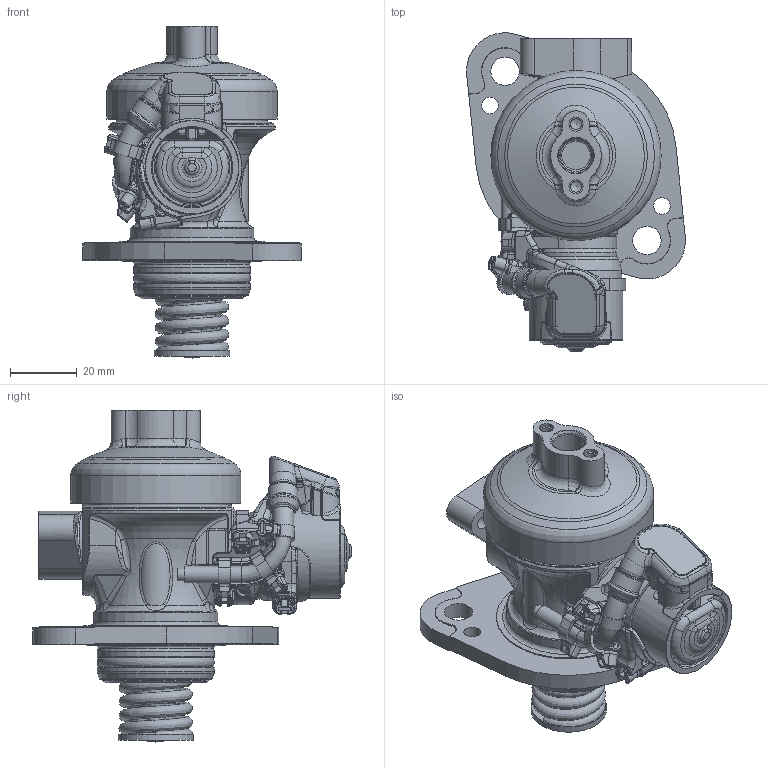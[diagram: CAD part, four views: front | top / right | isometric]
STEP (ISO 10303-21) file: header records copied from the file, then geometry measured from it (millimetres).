
FILE_DESCRIPTION(/* description */ (''),/* implementation_level */ '2;1');
FILE_NAME(/* name */ '0261B005WM-03_a_01_.stp',/* time_stamp */ '2024-03-26T17:30:45+07:00',/* author */ (''),/* organization */ (''),/* preprocessor_version */ 'ST-DEVELOPER v19.4',/* originating_system */ 'SIEMENS PLM Software NX2306.5001',/* authorisation */ '');
FILE_SCHEMA (('AUTOMOTIVE_DESIGN { 1 0 10303 214 3 1 1 1 }'));
Length unit declared in the file: millimetre
Products named in the file (1): 0261A005WM-03.001-Hochdruckpumpe HDP6LW Offer _altrep_ 0261A005WM-03_
a_01_
Bounding box: 65.38 x 95.17 x 99.2 mm (x, y, z)
Volume: 139526.4 mm3; surface area: 48452.6 mm2
Topology: 2 solids, 12 shells, 4595 faces, 11506 edges, 6732 vertices
Faces by surface type: cylinder 1730, torus 978, plane 852, bspline 700, cone 180, sphere 146, revolution 8, extrusion 1
Full cylindrical faces by diameter (mm): 0.4 x4, 1 x4, 1.2 x4, 1.3 x6, 3.3 x2, 3.795 x3, 3.799 x1, 4.2 x4, 4.5 x1, 5 x7, 5.5 x1, 5.505 x1, 7.5 x1, 8.5 x2, 8.9 x1, 9.5 x1, 9.9 x1, 9.985 x1, 10.6 x1, 10.7 x1, 11.5 x1, 11.6 x1, 11.8 x1, 13 x2, 13.9 x1, 14.9 x2, 17 x1, 17.1 x1, 22.5 x1, 24 x1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
Entity records: 181706 total; most frequent: CARTESIAN_POINT 86935, ORIENTED_EDGE 22032, DIRECTION 16062, EDGE_CURVE 11016, VERTEX_POINT 6598, AXIS2_PLACEMENT_3D 6540, B_SPLINE_CURVE_WITH_KNOTS 5259, EDGE_LOOP 4900
